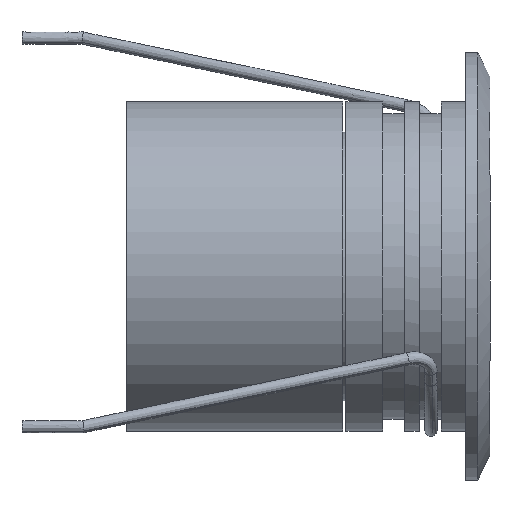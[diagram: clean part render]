
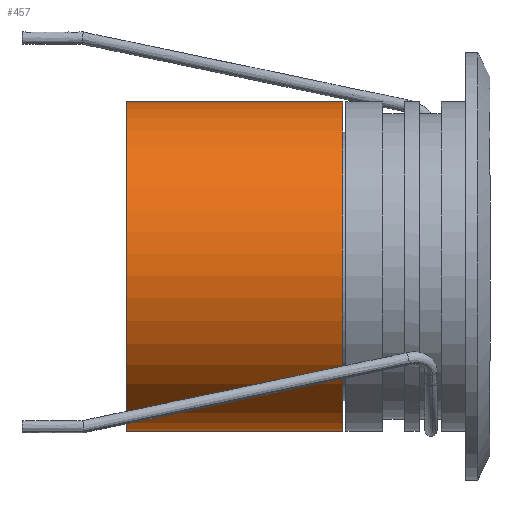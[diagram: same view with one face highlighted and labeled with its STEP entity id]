
A CAD part, left-side view. The second image highlights one B-rep face of the part: STEP entity #457.
In plain terms, the highlighted free-form (B-spline) face has degree [2, 1] with [5, 2] control points.
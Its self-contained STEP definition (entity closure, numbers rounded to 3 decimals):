
#457=ADVANCED_FACE('',(#886),#13831,.T.);
#886=FACE_OUTER_BOUND('',#1325,.T.);
#1325=EDGE_LOOP('',(#3313,#3314,#3315,#3316));
#3313=ORIENTED_EDGE('',*,*,#12272,.F.);
#3314=ORIENTED_EDGE('',*,*,#12244,.F.);
#3315=ORIENTED_EDGE('',*,*,#12273,.T.);
#3316=ORIENTED_EDGE('',*,*,#12242,.F.);
#5351=PCURVE('',#13820,#7433);
#5353=PCURVE('',#13820,#7435);
#5393=PCURVE('',#13830,#7475);
#5395=PCURVE('',#13831,#7477);
#5396=PCURVE('',#13831,#7478);
#5397=PCURVE('',#13831,#7479);
#5398=PCURVE('',#13831,#7480);
#5399=PCURVE('',#13832,#7481);
#7433=DEFINITIONAL_REPRESENTATION('',(#10051),#38114);
#7435=DEFINITIONAL_REPRESENTATION('',(#10054),#38114);
#7475=DEFINITIONAL_REPRESENTATION('',(#10112),#38114);
#7477=DEFINITIONAL_REPRESENTATION('',(#10114),#38114);
#7478=DEFINITIONAL_REPRESENTATION('',(#10115),#38114);
#7479=DEFINITIONAL_REPRESENTATION('',(#10116),#38114);
#7480=DEFINITIONAL_REPRESENTATION('',(#10117),#38114);
#7481=DEFINITIONAL_REPRESENTATION('',(#10118),#38114);
#10050=B_SPLINE_CURVE_WITH_KNOTS('',1,(#36129,#36130),.UNSPECIFIED.,.F.,
 .F.,(2,2),(28.7,46.4),.UNSPECIFIED.);
#10051=B_SPLINE_CURVE_WITH_KNOTS('',1,(#36131,#36132),.UNSPECIFIED.,.F.,
 .F.,(2,2),(28.7,46.4),.UNSPECIFIED.);
#10053=B_SPLINE_CURVE_WITH_KNOTS('',1,(#36140,#36141),.UNSPECIFIED.,.F.,
 .F.,(2,2),(-46.4,-28.7),.UNSPECIFIED.);
#10054=B_SPLINE_CURVE_WITH_KNOTS('',1,(#36142,#36143),.UNSPECIFIED.,.F.,
 .F.,(2,2),(-46.4,-28.7),.UNSPECIFIED.);
#10112=B_SPLINE_CURVE_WITH_KNOTS('',1,(#36308,#36309),.UNSPECIFIED.,.F.,
 .F.,(2,2),(-64.518,-32.259),.UNSPECIFIED.);
#10114=B_SPLINE_CURVE_WITH_KNOTS('',1,(#36312,#36313),.UNSPECIFIED.,.F.,
 .F.,(2,2),(-64.518,-32.259),.UNSPECIFIED.);
#10115=B_SPLINE_CURVE_WITH_KNOTS('',1,(#36314,#36315),.UNSPECIFIED.,.F.,
 .F.,(2,2),(-46.4,-28.7),.UNSPECIFIED.);
#10116=B_SPLINE_CURVE_WITH_KNOTS('',1,(#36321,#36322),.UNSPECIFIED.,.F.,
 .F.,(2,2),(-64.518,-32.259),.UNSPECIFIED.);
#10117=B_SPLINE_CURVE_WITH_KNOTS('',1,(#36323,#36324),.UNSPECIFIED.,.F.,
 .F.,(2,2),(28.7,46.4),.UNSPECIFIED.);
#10118=B_SPLINE_CURVE_WITH_KNOTS('',1,(#36325,#36326),.UNSPECIFIED.,.F.,
 .F.,(2,2),(-64.518,-32.259),.UNSPECIFIED.);
#11201=SURFACE_CURVE('',#10050,(#5351,#5398),.PCURVE_S1.);
#11203=SURFACE_CURVE('',#10053,(#5353,#5396),.PCURVE_S1.);
#11231=SURFACE_CURVE('',#12758,(#5393,#5395),.PCURVE_S1.);
#11232=SURFACE_CURVE('',#12759,(#5397,#5399),.PCURVE_S1.);
#12242=EDGE_CURVE('',#13396,#13397,#11201,.T.);
#12244=EDGE_CURVE('',#13394,#13384,#11203,.T.);
#12272=EDGE_CURVE('',#13384,#13396,#11231,.T.);
#12273=EDGE_CURVE('',#13394,#13397,#11232,.T.);
#12758=(
BOUNDED_CURVE()
B_SPLINE_CURVE(2,(#36303,#36304,#36305,#36306,#36307),.UNSPECIFIED.,.F.,
 .F.)
B_SPLINE_CURVE_WITH_KNOTS((3,2,3),(-64.518,-48.389,
-32.259),.UNSPECIFIED.)
CURVE()
GEOMETRIC_REPRESENTATION_ITEM()
RATIONAL_B_SPLINE_CURVE((1.,0.707,1.,0.707,1.))
REPRESENTATION_ITEM('')
);
#12759=(
BOUNDED_CURVE()
B_SPLINE_CURVE(2,(#36316,#36317,#36318,#36319,#36320),.UNSPECIFIED.,.F.,
 .F.)
B_SPLINE_CURVE_WITH_KNOTS((3,2,3),(-64.518,-48.389,
-32.259),.UNSPECIFIED.)
CURVE()
GEOMETRIC_REPRESENTATION_ITEM()
RATIONAL_B_SPLINE_CURVE((1.,0.707,1.,0.707,1.))
REPRESENTATION_ITEM('')
);
#13384=VERTEX_POINT('',#36085);
#13394=VERTEX_POINT('',#36095);
#13396=VERTEX_POINT('',#36097);
#13397=VERTEX_POINT('',#36098);
#13820=(
BOUNDED_SURFACE()
B_SPLINE_SURFACE(2,1,((#35875,#35876),(#35877,#35878),(#35879,#35880),(#35881,
#35882),(#35883,#35884)),.UNSPECIFIED.,.F.,.F.,.F.)
B_SPLINE_SURFACE_WITH_KNOTS((3,2,3),(2,2),(0.,16.13,32.259),
(28.7,46.4),.UNSPECIFIED.)
GEOMETRIC_REPRESENTATION_ITEM()
RATIONAL_B_SPLINE_SURFACE(((1.,1.),(0.707,0.707),
(1.,1.),(0.707,0.707),(1.,1.)))
REPRESENTATION_ITEM('')
SURFACE()
);
#13830=(
BOUNDED_SURFACE()
B_SPLINE_SURFACE(2,1,((#35975,#35976),(#35977,#35978),(#35979,#35980),(#35981,
#35982),(#35983,#35984)),.UNSPECIFIED.,.F.,.F.,.F.)
B_SPLINE_SURFACE_WITH_KNOTS((3,2,3),(2,2),(32.259,48.389,
64.518),(88.718,93.218),.UNSPECIFIED.)
GEOMETRIC_REPRESENTATION_ITEM()
RATIONAL_B_SPLINE_SURFACE(((1.,1.),(0.707,0.707),
(1.,1.),(0.707,0.707),(1.,1.)))
REPRESENTATION_ITEM('')
SURFACE()
);
#13831=(
BOUNDED_SURFACE()
B_SPLINE_SURFACE(2,1,((#35985,#35986),(#35987,#35988),(#35989,#35990),(#35991,
#35992),(#35993,#35994)),.UNSPECIFIED.,.F.,.F.,.F.)
B_SPLINE_SURFACE_WITH_KNOTS((3,2,3),(2,2),(32.259,48.389,
64.518),(28.7,46.4),.UNSPECIFIED.)
GEOMETRIC_REPRESENTATION_ITEM()
RATIONAL_B_SPLINE_SURFACE(((1.,1.),(0.707,0.707),
(1.,1.),(0.707,0.707),(1.,1.)))
REPRESENTATION_ITEM('')
SURFACE()
);
#13832=(
BOUNDED_SURFACE()
B_SPLINE_SURFACE(2,1,((#35995,#35996),(#35997,#35998),(#35999,#36000),(#36001,
#36002),(#36003,#36004)),.UNSPECIFIED.,.F.,.F.,.F.)
B_SPLINE_SURFACE_WITH_KNOTS((3,2,3),(2,2),(32.259,48.389,
64.518),(46.4,48.9),.UNSPECIFIED.)
GEOMETRIC_REPRESENTATION_ITEM()
RATIONAL_B_SPLINE_SURFACE(((1.,1.),(0.707,0.707),
(1.,1.),(0.707,0.707),(1.,1.)))
REPRESENTATION_ITEM('')
SURFACE()
);
#35875=CARTESIAN_POINT('',(0.,28.768,-13.5));
#35876=CARTESIAN_POINT('',(0.,11.068,-13.5));
#35877=CARTESIAN_POINT('',(13.5,28.768,-13.5));
#35878=CARTESIAN_POINT('',(13.5,11.068,-13.5));
#35879=CARTESIAN_POINT('',(13.5,28.768,0.));
#35880=CARTESIAN_POINT('',(13.5,11.068,0.));
#35881=CARTESIAN_POINT('',(13.5,28.768,13.5));
#35882=CARTESIAN_POINT('',(13.5,11.068,13.5));
#35883=CARTESIAN_POINT('',(0.,28.768,13.5));
#35884=CARTESIAN_POINT('',(0.,11.068,13.5));
#35975=CARTESIAN_POINT('',(0.,28.768,9.));
#35976=CARTESIAN_POINT('',(0.,28.768,13.5));
#35977=CARTESIAN_POINT('',(-9.,28.768,9.));
#35978=CARTESIAN_POINT('',(-13.5,28.768,13.5));
#35979=CARTESIAN_POINT('',(-9.,28.768,0.));
#35980=CARTESIAN_POINT('',(-13.5,28.768,0.));
#35981=CARTESIAN_POINT('',(-9.,28.768,-9.));
#35982=CARTESIAN_POINT('',(-13.5,28.768,-13.5));
#35983=CARTESIAN_POINT('',(0.,28.768,-9.));
#35984=CARTESIAN_POINT('',(0.,28.768,-13.5));
#35985=CARTESIAN_POINT('',(0.,28.768,13.5));
#35986=CARTESIAN_POINT('',(0.,11.068,13.5));
#35987=CARTESIAN_POINT('',(-13.5,28.768,13.5));
#35988=CARTESIAN_POINT('',(-13.5,11.068,13.5));
#35989=CARTESIAN_POINT('',(-13.5,28.768,0.));
#35990=CARTESIAN_POINT('',(-13.5,11.068,0.));
#35991=CARTESIAN_POINT('',(-13.5,28.768,-13.5));
#35992=CARTESIAN_POINT('',(-13.5,11.068,-13.5));
#35993=CARTESIAN_POINT('',(0.,28.768,-13.5));
#35994=CARTESIAN_POINT('',(0.,11.068,-13.5));
#35995=CARTESIAN_POINT('',(0.,11.068,13.5));
#35996=CARTESIAN_POINT('',(0.,11.068,11.));
#35997=CARTESIAN_POINT('',(-13.5,11.068,13.5));
#35998=CARTESIAN_POINT('',(-11.,11.068,11.));
#35999=CARTESIAN_POINT('',(-13.5,11.068,0.));
#36000=CARTESIAN_POINT('',(-11.,11.068,0.));
#36001=CARTESIAN_POINT('',(-13.5,11.068,-13.5));
#36002=CARTESIAN_POINT('',(-11.,11.068,-11.));
#36003=CARTESIAN_POINT('',(0.,11.068,-13.5));
#36004=CARTESIAN_POINT('',(0.,11.068,-11.));
#36085=CARTESIAN_POINT('',(0.,28.768,-13.5));
#36095=CARTESIAN_POINT('',(0.,11.068,-13.5));
#36097=CARTESIAN_POINT('',(0.,28.768,13.5));
#36098=CARTESIAN_POINT('',(0.,11.068,13.5));
#36129=CARTESIAN_POINT('',(0.,28.768,13.5));
#36130=CARTESIAN_POINT('',(0.,11.068,13.5));
#36131=CARTESIAN_POINT('',(32.259,28.7));
#36132=CARTESIAN_POINT('',(32.259,46.4));
#36140=CARTESIAN_POINT('',(0.,11.068,-13.5));
#36141=CARTESIAN_POINT('',(0.,28.768,-13.5));
#36142=CARTESIAN_POINT('',(0.,46.4));
#36143=CARTESIAN_POINT('',(0.,28.7));
#36303=CARTESIAN_POINT('',(0.,28.768,-13.5));
#36304=CARTESIAN_POINT('',(-13.5,28.768,-13.5));
#36305=CARTESIAN_POINT('',(-13.5,28.768,0.));
#36306=CARTESIAN_POINT('',(-13.5,28.768,13.5));
#36307=CARTESIAN_POINT('',(0.,28.768,13.5));
#36308=CARTESIAN_POINT('',(64.518,93.218));
#36309=CARTESIAN_POINT('',(32.259,93.218));
#36312=CARTESIAN_POINT('',(64.518,28.7));
#36313=CARTESIAN_POINT('',(32.259,28.7));
#36314=CARTESIAN_POINT('',(64.518,46.4));
#36315=CARTESIAN_POINT('',(64.518,28.7));
#36316=CARTESIAN_POINT('',(0.,11.068,-13.5));
#36317=CARTESIAN_POINT('',(-13.5,11.068,-13.5));
#36318=CARTESIAN_POINT('',(-13.5,11.068,0.));
#36319=CARTESIAN_POINT('',(-13.5,11.068,13.5));
#36320=CARTESIAN_POINT('',(0.,11.068,13.5));
#36321=CARTESIAN_POINT('',(64.518,46.4));
#36322=CARTESIAN_POINT('',(32.259,46.4));
#36323=CARTESIAN_POINT('',(32.259,28.7));
#36324=CARTESIAN_POINT('',(32.259,46.4));
#36325=CARTESIAN_POINT('',(64.518,46.4));
#36326=CARTESIAN_POINT('',(32.259,46.4));
#38114=(
GEOMETRIC_REPRESENTATION_CONTEXT(2)
PARAMETRIC_REPRESENTATION_CONTEXT()
REPRESENTATION_CONTEXT('pspace','')
);
